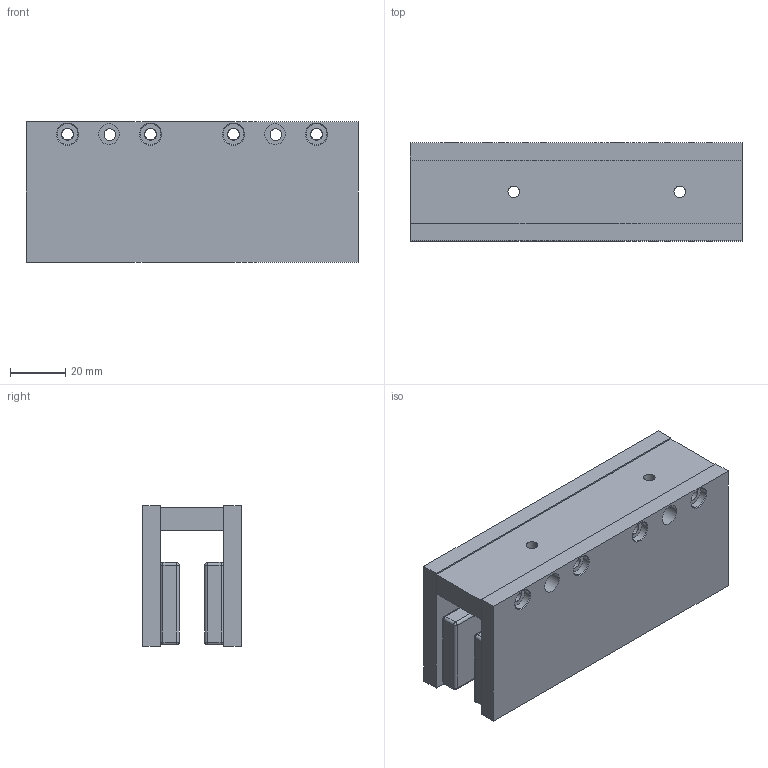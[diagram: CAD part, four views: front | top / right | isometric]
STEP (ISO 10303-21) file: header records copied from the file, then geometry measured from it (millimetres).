
FILE_DESCRIPTION (( 'STEP AP214' ), '1' );
FILE_NAME ('JKA3-120¶¨×Ó.STEP', '2025-09-05T12:41:18', ( '' ), ( '' ), 'SwSTEP 2.0', 'SolidWorks 2016', '' );
FILE_SCHEMA (( 'AUTOMOTIVE_DESIGN' ));
Length unit declared in the file: millimetre
Products named in the file (1): JKA3-120隅赽
Bounding box: 120 x 35.5 x 50.8 mm (x, y, z)
Volume: 134403.3 mm3; surface area: 55939.2 mm2
Topology: 11 solids, 11 shells, 318 faces, 708 edges, 356 vertices
Faces by surface type: cylinder 152, plane 74, sphere 64, cone 28
Entity records: 11862 total; most frequent: DIRECTION 1614, CARTESIAN_POINT 1319, ORIENTED_EDGE 1288, AXIS2_PLACEMENT_3D 651, EDGE_CURVE 644, EDGE_LOOP 366, VERTEX_POINT 356, CIRCLE 332
